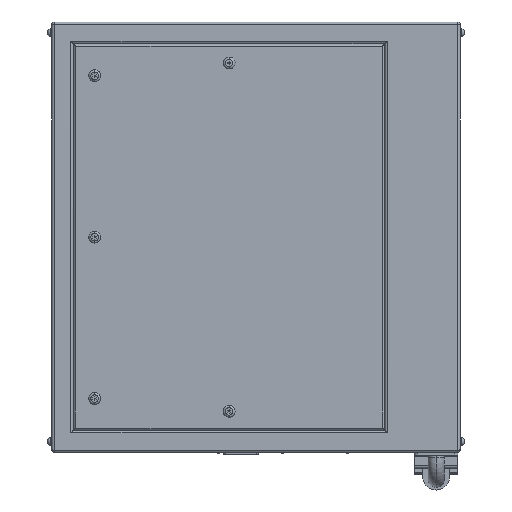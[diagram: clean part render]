
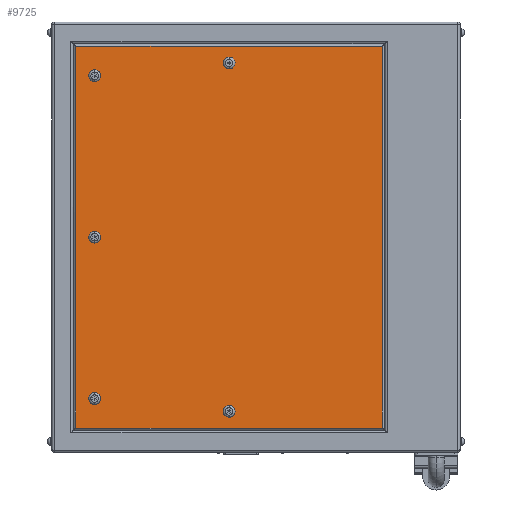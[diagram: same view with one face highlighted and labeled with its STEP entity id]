
A CAD part, left-side view. The second image highlights one B-rep face of the part: STEP entity #9725.
In plain terms, the highlighted planar face has unit normal (-1, 0, 0).
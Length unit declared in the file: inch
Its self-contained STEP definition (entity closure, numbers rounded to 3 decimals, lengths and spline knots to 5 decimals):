
#139 = ORIENTED_EDGE ( 'NONE', *, *, #6977, .T. ) ;
#427 = ORIENTED_EDGE ( 'NONE', *, *, #19100, .T. ) ;
#509 = VERTEX_POINT ( 'NONE', #19707 ) ;
#627 = DIRECTION ( 'NONE',  ( 0., 0., -1. ) ) ;
#666 = CARTESIAN_POINT ( 'NONE',  ( -11., 2.5, -15.64 ) ) ;
#1406 = DIRECTION ( 'NONE',  ( 0., 0., -1. ) ) ;
#1682 = ORIENTED_EDGE ( 'NONE', *, *, #18413, .T. ) ;
#1741 = AXIS2_PLACEMENT_3D ( 'NONE', #8587, #15536, #7224 ) ;
#1935 = EDGE_CURVE ( 'NONE', #5518, #8420, #5105, .T. ) ;
#2022 = VERTEX_POINT ( 'NONE', #17263 ) ;
#2358 = EDGE_CURVE ( 'NONE', #4792, #7077, #6710, .T. ) ;
#2440 = CARTESIAN_POINT ( 'NONE',  ( -11., 16.74, -20. ) ) ;
#2706 = CARTESIAN_POINT ( 'NONE',  ( -11., 2.5, 16.19 ) ) ;
#3174 = CARTESIAN_POINT ( 'NONE',  ( -11., -11.74, -20. ) ) ;
#3181 = CARTESIAN_POINT ( 'NONE',  ( -11., 15., 15.55 ) ) ;
#3197 = DIRECTION ( 'NONE',  ( 0., 0., -1. ) ) ;
#3778 = ORIENTED_EDGE ( 'NONE', *, *, #11014, .T. ) ;
#3889 = DIRECTION ( 'NONE',  ( 1., 0., 0. ) ) ;
#3918 = EDGE_CURVE ( 'NONE', #7077, #4792, #5346, .T. ) ;
#4034 = CIRCLE ( 'NONE', #10911, 0.55 ) ;
#4206 = DIRECTION ( 'NONE',  ( 0., 0., -1. ) ) ;
#4300 = DIRECTION ( 'NONE',  ( 0., 0., -1. ) ) ;
#4370 = CARTESIAN_POINT ( 'NONE',  ( -11., 15., 0. ) ) ;
#4576 = FACE_BOUND ( 'NONE', #15619, .T. ) ;
#4792 = VERTEX_POINT ( 'NONE', #666 ) ;
#4924 = PLANE ( 'NONE',  #5337 ) ;
#4988 = AXIS2_PLACEMENT_3D ( 'NONE', #19677, #5887, #16379 ) ;
#5105 = LINE ( 'NONE', #22348, #22190 ) ;
#5131 = LINE ( 'NONE', #3174, #8690 ) ;
#5177 = ORIENTED_EDGE ( 'NONE', *, *, #5741, .T. ) ;
#5265 = DIRECTION ( 'NONE',  ( 1., 0., 0. ) ) ;
#5337 = AXIS2_PLACEMENT_3D ( 'NONE', #16855, #18826, #3197 ) ;
#5346 = CIRCLE ( 'NONE', #4988, 0.55 ) ;
#5371 = CIRCLE ( 'NONE', #18460, 0.55 ) ;
#5439 = EDGE_CURVE ( 'NONE', #15770, #11460, #4034, .T. ) ;
#5497 = CARTESIAN_POINT ( 'NONE',  ( -11., 16.74, -17.74 ) ) ;
#5518 = VERTEX_POINT ( 'NONE', #18922 ) ;
#5605 = VERTEX_POINT ( 'NONE', #10403 ) ;
#5741 = EDGE_CURVE ( 'NONE', #5605, #19026, #22085, .T. ) ;
#5827 = DIRECTION ( 'NONE',  ( 0., 0., -1. ) ) ;
#5887 = DIRECTION ( 'NONE',  ( 1., 0., 0. ) ) ;
#6060 = ORIENTED_EDGE ( 'NONE', *, *, #5439, .T. ) ;
#6202 = EDGE_CURVE ( 'NONE', #2022, #7010, #15501, .T. ) ;
#6216 = DIRECTION ( 'NONE',  ( 1., 0., 0. ) ) ;
#6710 = CIRCLE ( 'NONE', #11401, 0.55 ) ;
#6977 = EDGE_CURVE ( 'NONE', #7010, #2022, #11727, .T. ) ;
#7010 = VERTEX_POINT ( 'NONE', #3181 ) ;
#7077 = VERTEX_POINT ( 'NONE', #12374 ) ;
#7224 = DIRECTION ( 'NONE',  ( 0., 0., -1. ) ) ;
#7293 = ORIENTED_EDGE ( 'NONE', *, *, #8349, .T. ) ;
#7845 = DIRECTION ( 'NONE',  ( 1., 0., 0. ) ) ;
#8000 = VERTEX_POINT ( 'NONE', #5497 ) ;
#8082 = AXIS2_PLACEMENT_3D ( 'NONE', #21230, #5265, #12498 ) ;
#8173 = DIRECTION ( 'NONE',  ( 1., 0., 0. ) ) ;
#8349 = EDGE_CURVE ( 'NONE', #11460, #15770, #5371, .T. ) ;
#8420 = VERTEX_POINT ( 'NONE', #16812 ) ;
#8587 = CARTESIAN_POINT ( 'NONE',  ( -11., 15., 0. ) ) ;
#8690 = VECTOR ( 'NONE', #22373, 39.37008 ) ;
#9156 = LINE ( 'NONE', #2440, #13383 ) ;
#9465 = EDGE_CURVE ( 'NONE', #8000, #13856, #15626, .T. ) ;
#9575 = CARTESIAN_POINT ( 'NONE',  ( -11., 15., -0.55 ) ) ;
#9653 = EDGE_LOOP ( 'NONE', ( #6060, #7293 ) ) ;
#9725 = ADVANCED_FACE ( 'NONE', ( #11466, #15007, #4576, #13643, #22048, #10217 ), #4924, .F. ) ;
#10214 = CARTESIAN_POINT ( 'NONE',  ( -11., 2.5, 16.74 ) ) ;
#10217 = FACE_OUTER_BOUND ( 'NONE', #11813, .T. ) ;
#10403 = CARTESIAN_POINT ( 'NONE',  ( -11., 15., -15.55 ) ) ;
#10619 = EDGE_CURVE ( 'NONE', #19026, #5605, #17388, .T. ) ;
#10911 = AXIS2_PLACEMENT_3D ( 'NONE', #2706, #10998, #4206 ) ;
#10998 = DIRECTION ( 'NONE',  ( 1., 0., 0. ) ) ;
#11014 = EDGE_CURVE ( 'NONE', #509, #15543, #17774, .T. ) ;
#11401 = AXIS2_PLACEMENT_3D ( 'NONE', #14451, #3889, #14568 ) ;
#11460 = VERTEX_POINT ( 'NONE', #10214 ) ;
#11466 = FACE_BOUND ( 'NONE', #15436, .T. ) ;
#11582 = DIRECTION ( 'NONE',  ( 1., 0., 0. ) ) ;
#11726 = ORIENTED_EDGE ( 'NONE', *, *, #11805, .T. ) ;
#11727 = CIRCLE ( 'NONE', #8082, 0.55 ) ;
#11805 = EDGE_CURVE ( 'NONE', #8420, #8000, #9156, .T. ) ;
#11813 = EDGE_LOOP ( 'NONE', ( #18624, #1682, #21276, #11726 ) ) ;
#11887 = DIRECTION ( 'NONE',  ( 0., 1., 0. ) ) ;
#12287 = AXIS2_PLACEMENT_3D ( 'NONE', #4370, #7845, #5827 ) ;
#12374 = CARTESIAN_POINT ( 'NONE',  ( -11., 2.5, -16.74 ) ) ;
#12445 = EDGE_LOOP ( 'NONE', ( #22323, #139 ) ) ;
#12498 = DIRECTION ( 'NONE',  ( 0., 0., -1. ) ) ;
#12506 = CARTESIAN_POINT ( 'NONE',  ( -11., 19., -17.74 ) ) ;
#12938 = CARTESIAN_POINT ( 'NONE',  ( -11., 15., 15. ) ) ;
#13099 = CARTESIAN_POINT ( 'NONE',  ( -11., 15., -14.45 ) ) ;
#13142 = CARTESIAN_POINT ( 'NONE',  ( -11., 15., -15. ) ) ;
#13383 = VECTOR ( 'NONE', #4300, 39.37008 ) ;
#13432 = DIRECTION ( 'NONE',  ( 0., 0., -1. ) ) ;
#13453 = EDGE_LOOP ( 'NONE', ( #427, #3778 ) ) ;
#13643 = FACE_BOUND ( 'NONE', #13453, .T. ) ;
#13672 = AXIS2_PLACEMENT_3D ( 'NONE', #12938, #19909, #627 ) ;
#13856 = VERTEX_POINT ( 'NONE', #17862 ) ;
#14451 = CARTESIAN_POINT ( 'NONE',  ( -11., 2.5, -16.19 ) ) ;
#14568 = DIRECTION ( 'NONE',  ( 0., 0., 1. ) ) ;
#14739 = AXIS2_PLACEMENT_3D ( 'NONE', #13142, #6216, #1406 ) ;
#15007 = FACE_BOUND ( 'NONE', #9653, .T. ) ;
#15193 = CIRCLE ( 'NONE', #12287, 0.55 ) ;
#15238 = CARTESIAN_POINT ( 'NONE',  ( -11., 2.5, 16.19 ) ) ;
#15436 = EDGE_LOOP ( 'NONE', ( #22512, #16578 ) ) ;
#15501 = CIRCLE ( 'NONE', #13672, 0.55 ) ;
#15536 = DIRECTION ( 'NONE',  ( 1., 0., 0. ) ) ;
#15543 = VERTEX_POINT ( 'NONE', #9575 ) ;
#15603 = VECTOR ( 'NONE', #17781, 39.37008 ) ;
#15619 = EDGE_LOOP ( 'NONE', ( #5177, #15856 ) ) ;
#15626 = LINE ( 'NONE', #12506, #15603 ) ;
#15770 = VERTEX_POINT ( 'NONE', #18419 ) ;
#15856 = ORIENTED_EDGE ( 'NONE', *, *, #10619, .T. ) ;
#16379 = DIRECTION ( 'NONE',  ( 0., 0., 1. ) ) ;
#16578 = ORIENTED_EDGE ( 'NONE', *, *, #2358, .T. ) ;
#16812 = CARTESIAN_POINT ( 'NONE',  ( -11., 16.74, 17.74 ) ) ;
#16855 = CARTESIAN_POINT ( 'NONE',  ( -11., 19., -20. ) ) ;
#16858 = CARTESIAN_POINT ( 'NONE',  ( -11., 15., -15. ) ) ;
#17263 = CARTESIAN_POINT ( 'NONE',  ( -11., 15., 14.45 ) ) ;
#17388 = CIRCLE ( 'NONE', #20314, 0.55 ) ;
#17774 = CIRCLE ( 'NONE', #1741, 0.55 ) ;
#17781 = DIRECTION ( 'NONE',  ( 0., -1., 0. ) ) ;
#17862 = CARTESIAN_POINT ( 'NONE',  ( -11., -11.74, -17.74 ) ) ;
#18413 = EDGE_CURVE ( 'NONE', #13856, #5518, #5131, .T. ) ;
#18419 = CARTESIAN_POINT ( 'NONE',  ( -11., 2.5, 15.64 ) ) ;
#18460 = AXIS2_PLACEMENT_3D ( 'NONE', #15238, #11582, #18575 ) ;
#18575 = DIRECTION ( 'NONE',  ( 0., 0., -1. ) ) ;
#18624 = ORIENTED_EDGE ( 'NONE', *, *, #9465, .T. ) ;
#18826 = DIRECTION ( 'NONE',  ( 1., 0., 0. ) ) ;
#18922 = CARTESIAN_POINT ( 'NONE',  ( -11., -11.74, 17.74 ) ) ;
#19026 = VERTEX_POINT ( 'NONE', #13099 ) ;
#19100 = EDGE_CURVE ( 'NONE', #15543, #509, #15193, .T. ) ;
#19677 = CARTESIAN_POINT ( 'NONE',  ( -11., 2.5, -16.19 ) ) ;
#19707 = CARTESIAN_POINT ( 'NONE',  ( -11., 15., 0.55 ) ) ;
#19909 = DIRECTION ( 'NONE',  ( 1., 0., 0. ) ) ;
#20314 = AXIS2_PLACEMENT_3D ( 'NONE', #16858, #8173, #13432 ) ;
#21230 = CARTESIAN_POINT ( 'NONE',  ( -11., 15., 15. ) ) ;
#21276 = ORIENTED_EDGE ( 'NONE', *, *, #1935, .T. ) ;
#22048 = FACE_BOUND ( 'NONE', #12445, .T. ) ;
#22085 = CIRCLE ( 'NONE', #14739, 0.55 ) ;
#22190 = VECTOR ( 'NONE', #11887, 39.37008 ) ;
#22323 = ORIENTED_EDGE ( 'NONE', *, *, #6202, .T. ) ;
#22348 = CARTESIAN_POINT ( 'NONE',  ( -11., 19., 17.74 ) ) ;
#22373 = DIRECTION ( 'NONE',  ( 0., 0., 1. ) ) ;
#22512 = ORIENTED_EDGE ( 'NONE', *, *, #3918, .T. ) ;
